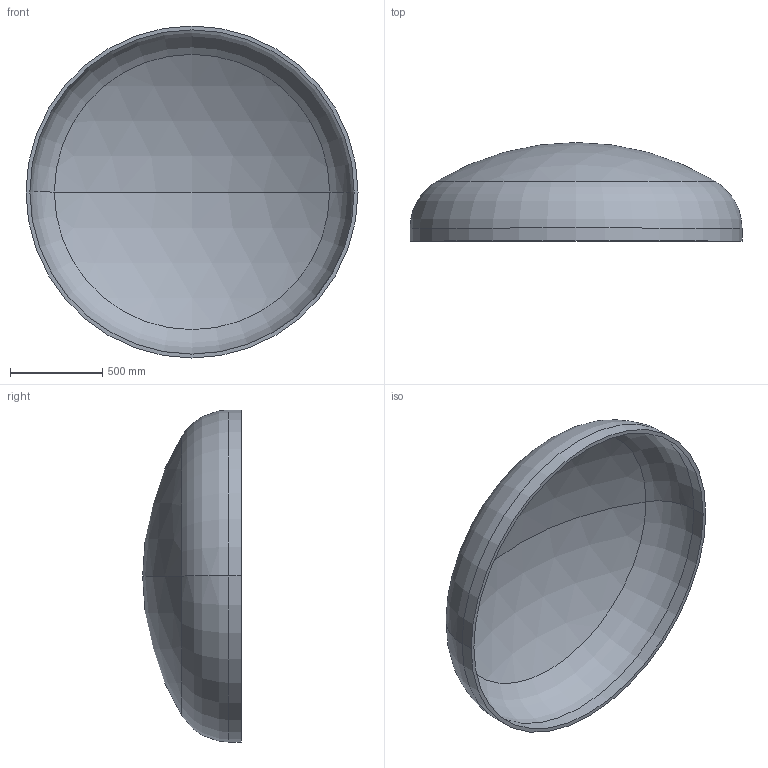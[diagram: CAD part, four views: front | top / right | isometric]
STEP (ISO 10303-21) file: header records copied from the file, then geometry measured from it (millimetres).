
FILE_DESCRIPTION (( 'STEP AP203' ), '1' );
FILE_NAME ('DIN 28013 Korbbogenform_-_Boden DIN 28013 - 1800 x 70 - I - s=21.step', '2016-07-01T12:21:35', ( '' ), ( '' ), 'SwSTEP 2.0', 'SolidWorks 2013', '' );
FILE_SCHEMA (( 'CONFIG_CONTROL_DESIGN' ));
Length unit declared in the file: millimetre
Products named in the file (1): DIN 28013 Korbbogenform_-_Boden DIN 28013 - 1800 x 70 - I - s=21
Bounding box: 1800 x 534.8 x 1800 mm (x, y, z)
Volume: 80980582.6 mm3; surface area: 7830724.1 mm2
Topology: 1 solids, 1 shells, 13 faces, 24 edges, 14 vertices
Faces by surface type: torus 4, cylinder 4, sphere 4, plane 1
Entity records: 407 total; most frequent: DIRECTION 72, CARTESIAN_POINT 52, ORIENTED_EDGE 48, AXIS2_PLACEMENT_3D 34, EDGE_CURVE 24, CIRCLE 20, EDGE_LOOP 14, VERTEX_POINT 14
